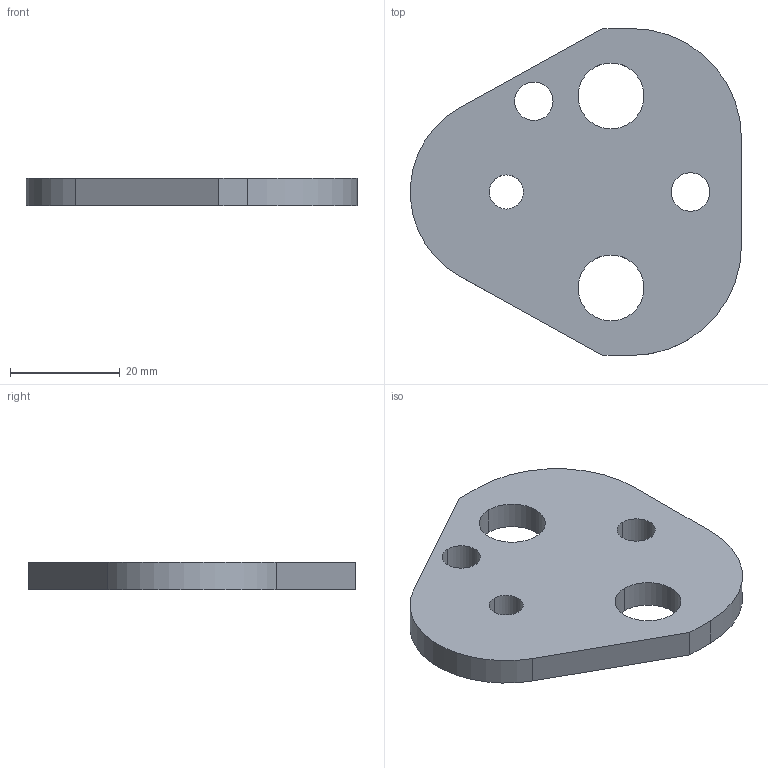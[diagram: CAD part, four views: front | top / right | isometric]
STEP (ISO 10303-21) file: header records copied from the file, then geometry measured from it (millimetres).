
FILE_DESCRIPTION(/* description */ (''),/* implementation_level */ '2;1');
FILE_NAME(/* name */ '3d_crnbp20_03635_r00.stp',/* time_stamp */ '2011-01-10T14:16:19+09:00',/* author */ ('MISUMI'),/* organization */ (''),/* preprocessor_version */ 'ST-DEVELOPER v11',/* originating_system */ 'UGS - NX 5.0',/* authorisation */ '');
FILE_SCHEMA (('CONFIG_CONTROL_DESIGN'));
Length unit declared in the file: millimetre
Products named in the file (1): 3d_crnbp20_03635_r00
Bounding box: 60.24 x 59.5 x 5 mm (x, y, z)
Volume: 11830.9 mm3; surface area: 6374.8 mm2
Topology: 1 solids, 1 shells, 20 faces, 54 edges, 36 vertices
Faces by surface type: cylinder 13, plane 7
Entity records: 750 total; most frequent: DIRECTION 122, CARTESIAN_POINT 111, ORIENTED_EDGE 108, EDGE_CURVE 54, AXIS2_PLACEMENT_3D 47, VERTEX_POINT 36, EDGE_LOOP 30, LINE 28
